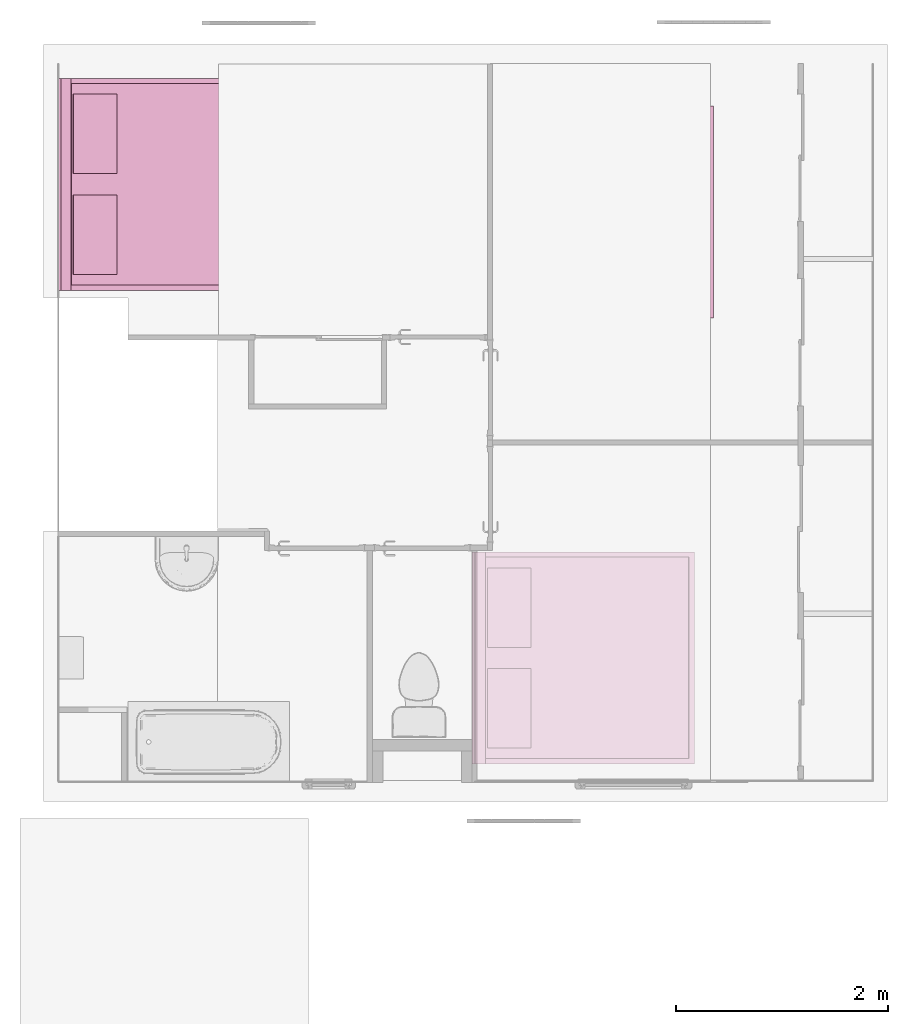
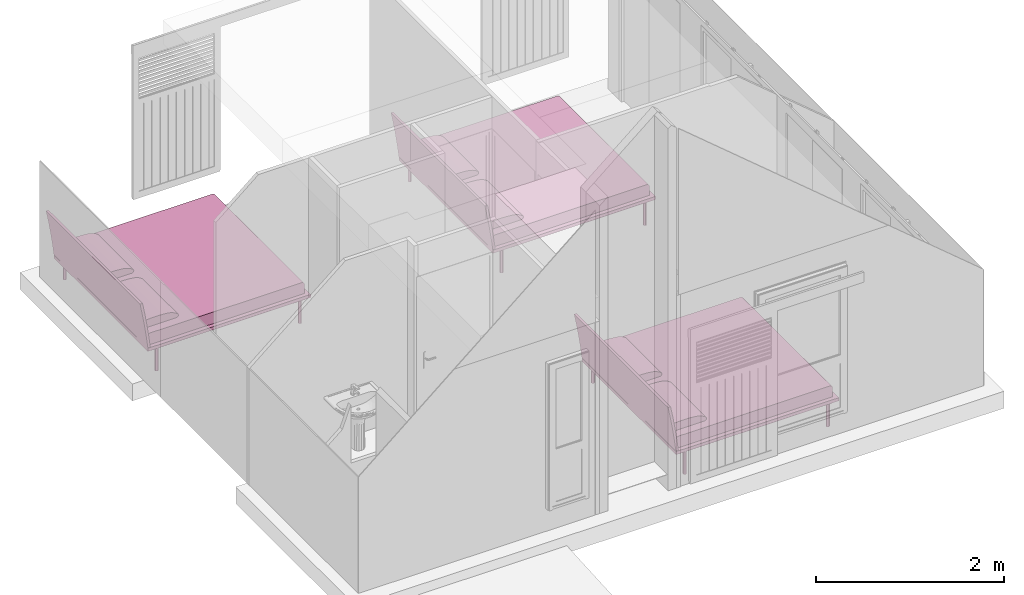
# One storey, part 10 of 11: 3 furnishings.
"""IFC2X3 building model written with IfcOpenShell, lengths in metres."""

from ifc_helpers import new_model, entity, si_unit, converted_unit, derived_unit, direction, frame, frame_2d, origin, origin_2d_with_axis, place, context, subcontext, project, spatial, polyline, circle_curve, parameter, trimmed, segment, composite_curve, rectangle, circle, outline, extrude, source, transform, mapped, material, material_list, type_object, type_shapes, element, save


model = new_model("IFC2X3")

# Units and contexts
model_context = context("Model", 3, precision=1e-05, world=origin(), true_north=direction((6.12303176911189e-17, 1.0)))
body_context = subcontext(model_context, "Body", "Model", "MODEL_VIEW")
ifc_project = project(units=[si_unit("LENGTHUNIT", "METRE"), si_unit("AREAUNIT", "SQUARE_METRE"), si_unit("VOLUMEUNIT", "CUBIC_METRE"), converted_unit("PLANEANGLEUNIT", "DEGREE", entity("IfcRatioMeasure", 0.0174532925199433), si_unit("PLANEANGLEUNIT", "RADIAN"), dimensions=[0, 0, 0, 0, 0, 0, 0]), si_unit("MASSUNIT", "GRAM", prefix="KILO"), derived_unit("MASSDENSITYUNIT", [(si_unit("MASSUNIT", "GRAM", prefix="KILO"), 1), (si_unit("LENGTHUNIT", "METRE"), -3)]), derived_unit("MOMENTOFINERTIAUNIT", [(si_unit("LENGTHUNIT", "METRE"), 4)]), si_unit("TIMEUNIT", "SECOND"), si_unit("FREQUENCYUNIT", "HERTZ"), si_unit("THERMODYNAMICTEMPERATUREUNIT", "DEGREE_CELSIUS"), derived_unit("THERMALTRANSMITTANCEUNIT", [(si_unit("MASSUNIT", "GRAM", prefix="KILO"), 1), (si_unit("THERMODYNAMICTEMPERATUREUNIT", "KELVIN"), -1), (si_unit("TIMEUNIT", "SECOND"), -3)]), derived_unit("VOLUMETRICFLOWRATEUNIT", [(si_unit("LENGTHUNIT", "METRE"), 3), (si_unit("TIMEUNIT", "SECOND"), -1)]), si_unit("ELECTRICCURRENTUNIT", "AMPERE"), si_unit("ELECTRICVOLTAGEUNIT", "VOLT"), si_unit("POWERUNIT", "WATT"), si_unit("FORCEUNIT", "NEWTON", prefix="KILO"), si_unit("ILLUMINANCEUNIT", "LUX"), si_unit("LUMINOUSFLUXUNIT", "LUMEN"), si_unit("LUMINOUSINTENSITYUNIT", "CANDELA"), derived_unit("USERDEFINED", [(si_unit("MASSUNIT", "GRAM", prefix="KILO"), -1), (si_unit("LENGTHUNIT", "METRE"), -2), (si_unit("TIMEUNIT", "SECOND"), 3), (si_unit("LUMINOUSFLUXUNIT", "LUMEN"), 1)]), derived_unit("LINEARVELOCITYUNIT", [(si_unit("LENGTHUNIT", "METRE"), 1), (si_unit("TIMEUNIT", "SECOND"), -1)]), si_unit("PRESSUREUNIT", "PASCAL"), derived_unit("USERDEFINED", [(si_unit("LENGTHUNIT", "METRE"), -2), (si_unit("MASSUNIT", "GRAM", prefix="KILO"), 1), (si_unit("TIMEUNIT", "SECOND"), -2)]), derived_unit("LINEARFORCEUNIT", [(si_unit("MASSUNIT", "GRAM", prefix="KILO"), 1), (si_unit("LENGTHUNIT", "METRE"), 1), (si_unit("TIMEUNIT", "SECOND"), -2), (si_unit("LENGTHUNIT", "METRE"), -1)]), derived_unit("PLANARFORCEUNIT", [(si_unit("MASSUNIT", "GRAM", prefix="KILO"), 1), (si_unit("LENGTHUNIT", "METRE"), 1), (si_unit("TIMEUNIT", "SECOND"), -2), (si_unit("LENGTHUNIT", "METRE"), -2)])], contexts=[model_context])

# Site, building, storey
site_placement = place(None, origin())
site = spatial("IfcSite", under=ifc_project, at=site_placement, Name="Surface", CompositionType="ELEMENT")
building_placement = place(site_placement, origin())
building = spatial("IfcBuilding", under=site, at=building_placement, CompositionType="ELEMENT")
storey_placement = place(building_placement, frame((0.0, 0.0, 2.72)))
storey = spatial("IfcBuildingStorey", under=building, at=storey_placement, Name="02 ETG", CompositionType="ELEMENT", Elevation=2.72)

# Furnishings
ifc_material_1 = material(Name="Textile - Bleu pâle")
ifc_material_2 = material(Name="Bois - Teck")
ifc_material_3 = material(Name="Métal - Chrome")
ifc_material_list_1 = material_list([ifc_material_1, ifc_material_2, ifc_material_3])
ifc_material_list_2 = material_list([ifc_material_2, ifc_material_3, ifc_material_1])
furniture_type = type_object("IfcFurnitureType", Name="Lit à tête en bois:2000mm x 2100mm", material=ifc_material_list_2)
shared_shape = source(origin(), body_context, "Body", "SweptSolid", [
    extrude(outline(composite_curve([segment(polyline([(-0.0299999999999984, -0.959899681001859), (0.0900000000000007, -0.959899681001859)]), True, "CONTINUOUS"), segment(polyline([(0.0900000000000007, -0.959899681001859), (0.0899999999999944, 0.959899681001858)]), True, "CONTINUOUS"), segment(polyline([(0.0899999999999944, 0.959899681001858), (-0.0299999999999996, 0.959899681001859)]), True, "CONTINUOUS"), segment(trimmed(circle_curve(frame_2d((-0.0299999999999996, 0.929899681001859), x_axis=(0.0, 1.0)), 0.0299999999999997), [parameter(359.999999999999)], [parameter(89.9999999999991)], True, "PARAMETER"), True, "CONTINUOUS"), segment(polyline([(-0.0599999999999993, 0.929899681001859), (-0.0599999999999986, -0.929899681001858)]), True, "CONTINUOUS"), segment(trimmed(circle_curve(frame_2d((-0.0299999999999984, -0.929899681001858), x_axis=(0.0, 1.0)), 0.0300000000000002), [parameter(89.9999999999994)], [parameter(179.999999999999)], True, "PARAMETER"), True, "CONTINUOUS")], self_intersect=False)), frame((-0.949999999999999, 1.08680538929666, 0.430000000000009), z_axis=(1.0, 0.0, 0.0), x_axis=(0.0, 0.0, -1.0)), (0.0, 0.0, 1.0), 1.9),
    extrude(rectangle(XDim=1.9, YDim=1.89039081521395, at=frame_2d((0.0, -1.11022302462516e-16), x_axis=(1.0, 0.0))), frame((0.0, 1.10150966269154, 0.258019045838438), z_axis=(0.0, 0.0, 1.0), x_axis=(-1.0, 0.0, 0.0)), (0.0, 0.0, 1.0), 0.0419809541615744),
    extrude(rectangle(XDim=2.0, YDim=2.0, at=frame_2d((0.0, -1.11022302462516e-16), x_axis=(1.0, 0.0))), frame((0.0, 1.09670507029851, 0.300000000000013), z_axis=(0.0, 0.0, 1.0), x_axis=(-1.0, 0.0, 0.0)), (0.0, 0.0, 1.0), 0.0399999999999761),
    extrude(outline(composite_curve([segment(trimmed(circle_curve(frame_2d((-7.10943981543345, -1.13522134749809), x_axis=(1.0, 0.0)), 7.22091076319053), [parameter(6.64226903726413)], [parameter(11.4642297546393)], True, "PARAMETER"), True, "CONTINUOUS"), segment(polyline([(-0.0325935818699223, 0.299978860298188), (-0.063206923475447, 0.299978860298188)]), True, "CONTINUOUS"), segment(trimmed(circle_curve(frame_2d((-7.10943981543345, -1.13522134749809), x_axis=(1.0, 0.0)), 7.19091076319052), [parameter(6.67010574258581)], [parameter(11.512710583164)], True, "PARAMETER"), False, "CONTINUOUS"), segment(polyline([(0.0327984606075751, -0.299978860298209), (0.0630020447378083, -0.299978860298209)]), True, "CONTINUOUS")], self_intersect=False)), frame((-1.0, 0.0632069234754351, 0.645983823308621), z_axis=(1.0, 0.0, 0.0), x_axis=(0.0, 1.0, 0.0)), (0.0, 0.0, 1.0), 2.0),
    extrude(circle(Radius=0.0200000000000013, at=origin_2d_with_axis()), frame((-0.97499999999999, 1.97670507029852, 0.0), z_axis=(0.0, 0.0, 1.0), x_axis=(-1.0, 0.0, 0.0)), (0.0, 0.0, 1.0), 0.300000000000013),
    extrude(circle(Radius=0.0200000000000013, at=origin_2d_with_axis()), frame((0.975000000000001, 1.9767050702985, 0.0)), (0.0, 0.0, 1.0), 0.300000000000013),
    extrude(circle(Radius=0.0200000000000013, at=frame_2d((0.0, -3.38395977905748e-17), x_axis=(1.0, 0.0))), frame((-0.974999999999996, 0.21670507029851, 0.0), z_axis=(0.0, 0.0, 1.0), x_axis=(-1.0, 0.0, 0.0)), (0.0, 0.0, 1.0), 0.300000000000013),
    extrude(circle(Radius=0.0200000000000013, at=frame_2d((0.0, -3.38395977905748e-17), x_axis=(1.0, 0.0))), frame((0.974999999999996, 0.21670507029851, 0.0)), (0.0, 0.0, 1.0), 0.300000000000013),
    extrude(outline(composite_curve([segment(trimmed(circle_curve(frame_2d((-0.0516701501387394, -1.1552853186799), x_axis=(1.0, 0.0)), 1.20993961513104), [parameter(82.8980080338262)], [parameter(94.8313981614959)], True, "PARAMETER"), True, "CONTINUOUS"), segment(trimmed(circle_curve(frame_2d((-0.150630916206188, 0.0155121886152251), x_axis=(1.0, 0.0)), 0.0349672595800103), [parameter(94.8313981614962)], [parameter(189.999999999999)], True, "PARAMETER"), True, "CONTINUOUS"), segment(polyline([(-0.185066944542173, 0.00944018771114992), (-0.174572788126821, -0.0500751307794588)]), True, "CONTINUOUS"), segment(polyline([(-0.174572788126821, -0.0500751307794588), (0.197281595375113, -0.0500751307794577)]), True, "CONTINUOUS"), segment(trimmed(circle_curve(frame_2d((0.20214826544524, -0.025015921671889), x_axis=(1.0, 0.0)), 0.0255274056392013), [parameter(259.009576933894)], [parameter(51.5780573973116)], True, "PARAMETER"), True, "CONTINUOUS"), segment(trimmed(circle_curve(frame_2d((0.0680964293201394, -0.194014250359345), x_axis=(1.0, 0.0)), 0.241236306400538), [parameter(51.5780573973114)], [parameter(82.8980080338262)], True, "PARAMETER"), True, "CONTINUOUS")], self_intersect=False)), frame((-0.849999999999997, 0.330547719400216, 0.545049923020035), z_axis=(1.0, 0.0, 0.0), x_axis=(0.0, 1.0, 0.0)), (0.0, 0.0, 1.0), 0.749837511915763),
    extrude(outline(composite_curve([segment(trimmed(circle_curve(frame_2d((-0.0516701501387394, -1.1552853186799), x_axis=(1.0, 0.0)), 1.20993961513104), [parameter(82.8980080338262)], [parameter(94.8313981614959)], True, "PARAMETER"), True, "CONTINUOUS"), segment(trimmed(circle_curve(frame_2d((-0.150630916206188, 0.0155121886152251), x_axis=(1.0, 0.0)), 0.0349672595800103), [parameter(94.831398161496)], [parameter(189.999999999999)], True, "PARAMETER"), True, "CONTINUOUS"), segment(polyline([(-0.185066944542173, 0.00944018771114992), (-0.174572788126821, -0.0500751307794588)]), True, "CONTINUOUS"), segment(polyline([(-0.174572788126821, -0.0500751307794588), (0.197281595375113, -0.0500751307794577)]), True, "CONTINUOUS"), segment(trimmed(circle_curve(frame_2d((0.20214826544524, -0.025015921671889), x_axis=(1.0, 0.0)), 0.0255274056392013), [parameter(259.009576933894)], [parameter(51.5780573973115)], True, "PARAMETER"), True, "CONTINUOUS"), segment(trimmed(circle_curve(frame_2d((0.0680964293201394, -0.194014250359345), x_axis=(1.0, 0.0)), 0.241236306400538), [parameter(51.5780573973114)], [parameter(82.8980080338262)], True, "PARAMETER"), True, "CONTINUOUS")], self_intersect=False)), frame((0.1, 0.330547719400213, 0.545049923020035), z_axis=(1.0, 0.0, 0.0), x_axis=(0.0, 1.0, 0.0)), (0.0, 0.0, 1.0), 0.749999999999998),
])
type_shapes(furniture_type, [shared_shape])
furnishing_1_placement = place(storey_placement, frame((5.73656158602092, 2.30403904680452, -0.00500000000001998), z_axis=(0.0, 0.0, 1.0), x_axis=(0.0, -1.0, 0.0)))
element("IfcFurnishingElement", 1, at=furnishing_1_placement, inside=storey, type_object=furniture_type, material=ifc_material_list_1, Name="Lit à tête en bois:2000mm x 2100mm", ObjectType="Lit à tête en bois:2000mm x 2100mm", context=body_context, shape_type="MappedRepresentation", body=[
    mapped(shared_shape, transform((0.0, 0.0, 0.0), scale=1.0)),
])
ifc_material_list_3 = material_list([ifc_material_1, ifc_material_2, ifc_material_3])
furnishing_2_placement = place(storey_placement, frame((9.64156158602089, -2.16221095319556, -0.00500000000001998), z_axis=(0.0, 0.0, 1.0), x_axis=(0.0, -1.0, 0.0)))
element("IfcFurnishingElement", 2, at=furnishing_2_placement, inside=storey, type_object=furniture_type, material=ifc_material_list_3, Name="Lit à tête en bois:2000mm x 2100mm", ObjectType="Lit à tête en bois:2000mm x 2100mm", context=body_context, shape_type="MappedRepresentation", body=[
    mapped(shared_shape, transform((0.0, 0.0, 0.0), scale=1.0)),
])
ifc_material_list_4 = material_list([ifc_material_1, ifc_material_2, ifc_material_3])
furnishing_3_placement = place(storey_placement, frame((9.8215615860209, 2.04403904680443, -0.00500000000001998), z_axis=(0.0, 0.0, 1.0), x_axis=(0.0, -1.0, 0.0)))
element("IfcFurnishingElement", 3, at=furnishing_3_placement, inside=storey, type_object=furniture_type, material=ifc_material_list_4, Name="Lit à tête en bois:2000mm x 2100mm", ObjectType="Lit à tête en bois:2000mm x 2100mm", context=body_context, shape_type="MappedRepresentation", body=[
    mapped(shared_shape, transform((0.0, 0.0, 0.0), scale=1.0)),
])

save(model, "model.ifc")
